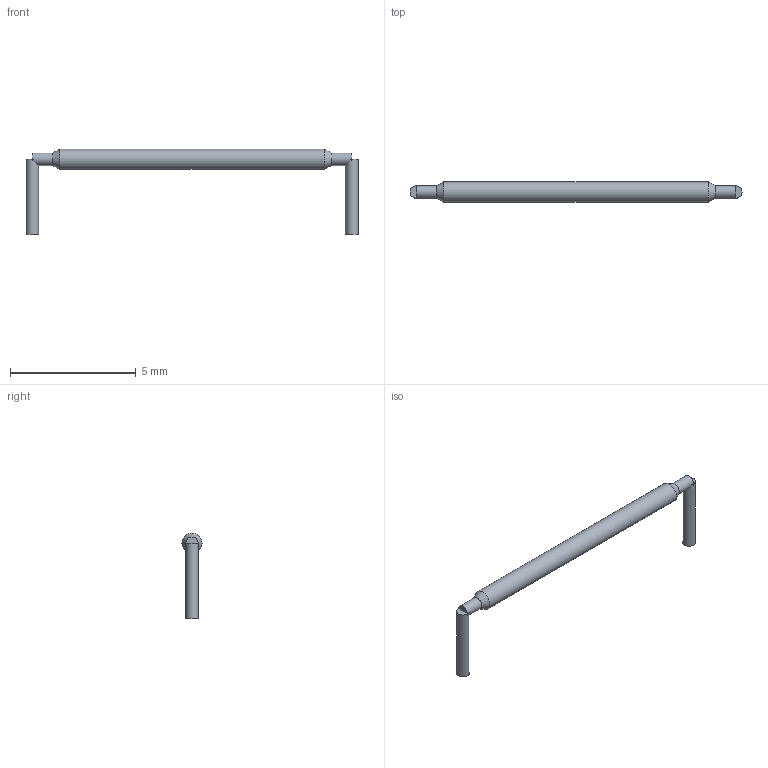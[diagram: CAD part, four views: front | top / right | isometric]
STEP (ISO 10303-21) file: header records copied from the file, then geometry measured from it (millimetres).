
FILE_DESCRIPTION(('FreeCAD Model'),'2;1');
FILE_NAME('Open CASCADE Shape Model','2026-04-07T19:07:43',('FreeCAD'),( 'FreeCAD'),'Open CASCADE STEP processor 7.8','FreeCAD','Unknown');
FILE_SCHEMA(('AUTOMOTIVE_DESIGN { 1 0 10303 214 1 1 1 1 }'));
Length unit declared in the file: millimetre
Products named in the file (1): Open CASCADE STEP translator 7.8 5
Bounding box: 13.2 x 0.8 x 3.4 mm (x, y, z)
Volume: 9.2 mm3; surface area: 58.7 mm2
Topology: 4 solids, 4 shells, 14 faces, 16 edges, 10 vertices
Faces by surface type: plane 8, cylinder 4, cone 2
Full cylindrical faces by diameter (mm): 0.5 x3, 0.8 x1
Entity records: 287 total; most frequent: DIRECTION 56, CARTESIAN_POINT 41, ORIENTED_EDGE 32, AXIS2_PLACEMENT_3D 25, EDGE_CURVE 16, ADVANCED_FACE 14, FACE_BOUND 14, EDGE_LOOP 14
